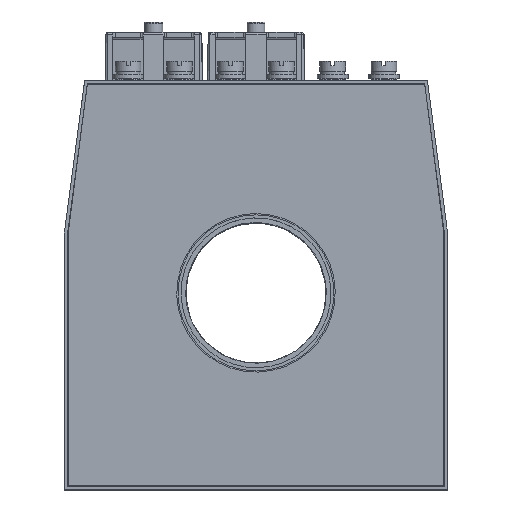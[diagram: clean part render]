
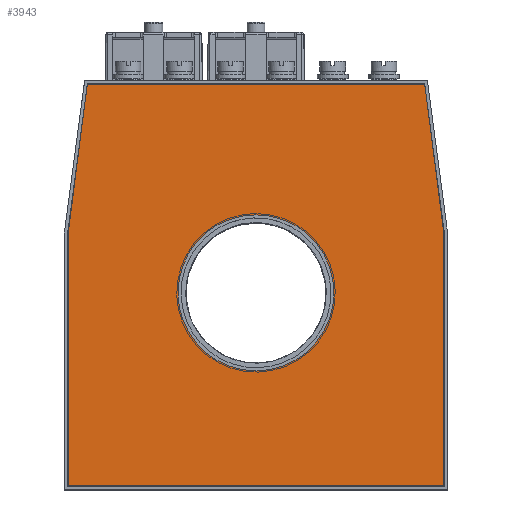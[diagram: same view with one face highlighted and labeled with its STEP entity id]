
A CAD part, top view. The second image highlights one B-rep face of the part: STEP entity #3943.
In plain terms, the highlighted planar face has unit normal (0, 0, 1).
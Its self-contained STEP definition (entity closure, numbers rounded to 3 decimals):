
#3943=ADVANCED_FACE('',(#7064,#7066),#7068,.T.);
#7064=FACE_BOUND('',#7065,.T.);
#7065=EDGE_LOOP('',(#8257,#8258,#8259,#8260,#8261,#8262));
#7066=FACE_BOUND('',#7067,.T.);
#7067=EDGE_LOOP('',(#8263));
#7068=PLANE('',#7069);
#7069=AXIS2_PLACEMENT_3D('',#7070,#7071,#7072);
#7070=CARTESIAN_POINT('',(0.,0.,5.));
#7071=DIRECTION('',(0.,0.,1.));
#7072=DIRECTION('',(1.,0.,0.));
#8257=ORIENTED_EDGE('',*,*,#8860,.T.);
#8258=ORIENTED_EDGE('',*,*,#8861,.T.);
#8259=ORIENTED_EDGE('',*,*,#8862,.T.);
#8260=ORIENTED_EDGE('',*,*,#8863,.T.);
#8261=ORIENTED_EDGE('',*,*,#8864,.T.);
#8262=ORIENTED_EDGE('',*,*,#8865,.T.);
#8263=ORIENTED_EDGE('',*,*,#8866,.T.);
#8860=EDGE_CURVE('',#9848,#9849,#9850,.T.);
#8861=EDGE_CURVE('',#9849,#9851,#9852,.T.);
#8862=EDGE_CURVE('',#9851,#9853,#9854,.T.);
#8863=EDGE_CURVE('',#9853,#9855,#9856,.T.);
#8864=EDGE_CURVE('',#9855,#9857,#9858,.T.);
#8865=EDGE_CURVE('',#9857,#9848,#9859,.T.);
#8866=EDGE_CURVE('',#9860,#9860,#9861,.F.);
#9848=VERTEX_POINT('',#12441);
#9849=VERTEX_POINT('',#12442);
#9850=LINE('',#12443,#12444);
#9851=VERTEX_POINT('',#12446);
#9852=LINE('',#12447,#12448);
#9853=VERTEX_POINT('',#12450);
#9854=LINE('',#12451,#12452);
#9855=VERTEX_POINT('',#12454);
#9856=LINE('',#12455,#12456);
#9857=VERTEX_POINT('',#12458);
#9858=LINE('',#12459,#12460);
#9859=LINE('',#12462,#12463);
#9860=VERTEX_POINT('',#12465);
#9861=CIRCLE('',#12466,30.5);
#12441=CARTESIAN_POINT('',(-73.5,19.815,5.));
#12442=CARTESIAN_POINT('',(-73.5,-78.5,5.));
#12443=CARTESIAN_POINT('',(-73.5,19.815,5.));
#12444=VECTOR('',#12445,1.);
#12445=DIRECTION('',(0.,-1.,0.));
#12446=CARTESIAN_POINT('',(73.5,-78.5,5.));
#12447=CARTESIAN_POINT('',(-73.5,-78.5,5.));
#12448=VECTOR('',#12449,1.);
#12449=DIRECTION('',(1.,0.,0.));
#12450=CARTESIAN_POINT('',(73.5,19.815,5.));
#12451=CARTESIAN_POINT('',(73.5,-78.5,5.));
#12452=VECTOR('',#12453,1.);
#12453=DIRECTION('',(0.,1.,0.));
#12454=CARTESIAN_POINT('',(66.,78.5,5.));
#12455=CARTESIAN_POINT('',(73.5,19.815,5.));
#12456=VECTOR('',#12457,1.);
#12457=DIRECTION('',(-0.127,0.992,0.));
#12458=CARTESIAN_POINT('',(-66.,78.5,5.));
#12459=CARTESIAN_POINT('',(66.,78.5,5.));
#12460=VECTOR('',#12461,1.);
#12461=DIRECTION('',(-1.,0.,0.));
#12462=CARTESIAN_POINT('',(-66.,78.5,5.));
#12463=VECTOR('',#12464,1.);
#12464=DIRECTION('',(-0.127,-0.992,0.));
#12465=CARTESIAN_POINT('',(30.5,-3.,5.));
#12466=AXIS2_PLACEMENT_3D('',#12467,#12468,#12469);
#12467=CARTESIAN_POINT('',(0.,-3.,5.));
#12468=DIRECTION('',(0.,0.,1.));
#12469=DIRECTION('',(1.,0.,0.));
